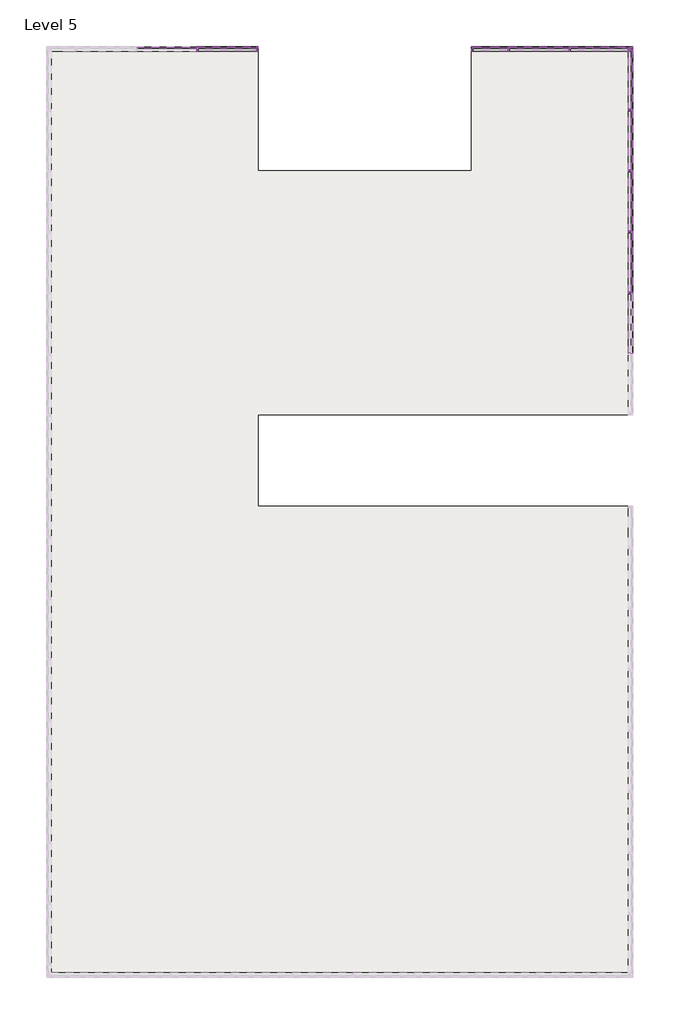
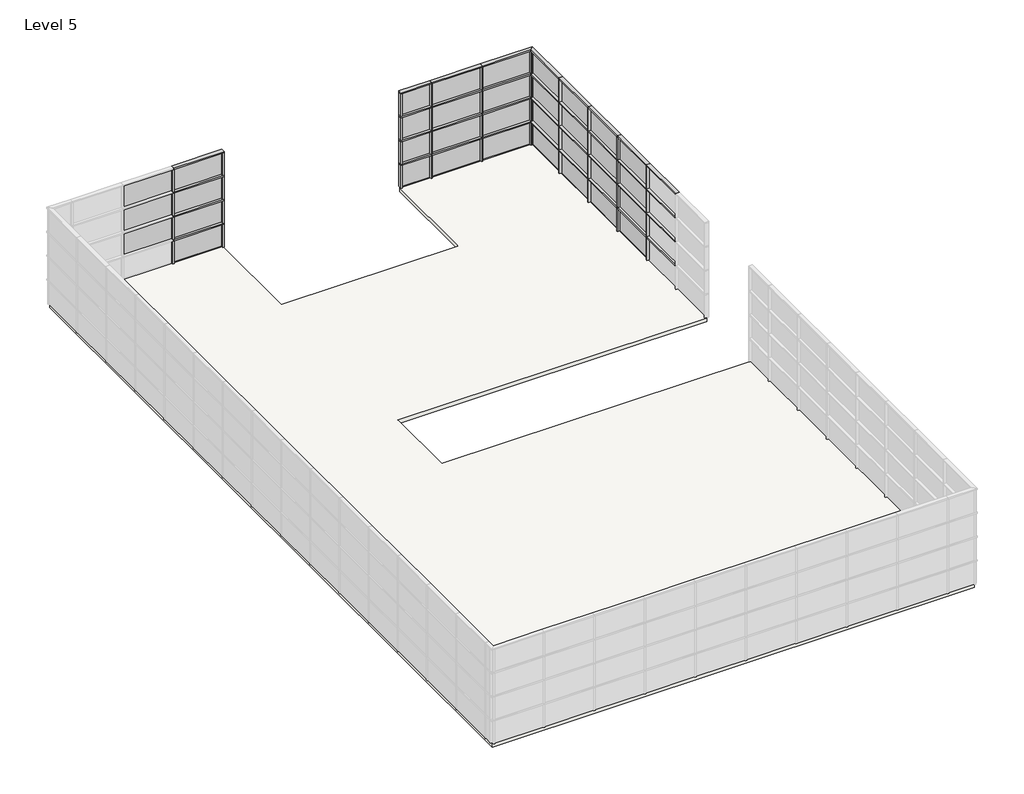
# One storey, part 5 of 5: 80 members, 35 plates, 1 slab.
"""IFC4 building model written with IfcOpenShell, lengths in millimetres."""

from ifc_helpers import new_model, si_unit, frame, origin, place, context, project, spatial, polyline, outline, extrude, transform, mapped, element, save
from components import rectangular_mullion_50_x_150mm_a053b0ca, rectangular_mullion_50_x_150mm_3a148f0f, rectangular_mullion_50_x_150mm_12a430f9, rectangular_mullion_50_x_150mm_11a594ce, rectangular_mullion_50_x_150mm_6b24f785, rectangular_mullion_50_x_150mm_947845bb, system_panel_glazed_751a585c, system_panel_glazed_08de6f5f, system_panel_glazed_892a108f

model = new_model("IFC4")

# Units and contexts
model_context = context("Model", 3, world=origin())
ifc_project = project(units=[si_unit("LENGTHUNIT", "METRE", prefix="MILLI")], contexts=[model_context])

# Site, building, storey
site = spatial("IfcSite", under=ifc_project)
building = spatial("IfcBuilding", under=site)
storey = spatial("IfcBuildingStorey", under=building, Name="Level 5", Elevation=16000.0)

# Members
placement = place(None, origin())
rectangular_mullion_50_x_150mm_shape = rectangular_mullion_50_x_150mm_a053b0ca(model_context)
element("IfcMember", 1, ObjectType="Rectangular Mullion : 50 x 150mm", at=placement, inside=storey, context=model_context, shape_type="MappedRepresentation", body=[
    mapped(rectangular_mullion_50_x_150mm_shape, transform((-721.580781, 8375.9839566, 18025.0), x_axis=(-1.0, 0.0, 0.0), y_axis=(0.0, 1.0, 0.0), z_axis=(0.0, 0.0, -1.0))),
])
element("IfcMember", 2, ObjectType="Rectangular Mullion : 50 x 150mm", at=placement, inside=storey, context=model_context, shape_type="MappedRepresentation", body=[
    mapped(rectangular_mullion_50_x_150mm_shape, transform((-721.580781, 8375.9839566, 19025.0), x_axis=(-1.0, 0.0, 0.0), y_axis=(0.0, 1.0, 0.0), z_axis=(0.0, 0.0, -1.0))),
])
element("IfcMember", 3, ObjectType="Rectangular Mullion : 50 x 150mm", at=placement, inside=storey, context=model_context, shape_type="MappedRepresentation", body=[
    mapped(rectangular_mullion_50_x_150mm_shape, transform((-721.580781, 8375.9839566, 16025.0), x_axis=(-1.0, 0.0, 0.0), y_axis=(0.0, 1.0, 0.0), z_axis=(0.0, 0.0, -1.0))),
])
element("IfcMember", 4, ObjectType="Rectangular Mullion : 50 x 150mm", at=placement, inside=storey, context=model_context, shape_type="MappedRepresentation", body=[
    mapped(rectangular_mullion_50_x_150mm_shape, transform((-721.580781, 8375.9839566, 17025.0), x_axis=(-1.0, 0.0, 0.0), y_axis=(0.0, 1.0, 0.0), z_axis=(0.0, 0.0, -1.0))),
])
element("IfcMember", 5, ObjectType="Rectangular Mullion : 50 x 150mm", at=placement, inside=storey, context=model_context, shape_type="MappedRepresentation", body=[
    mapped(rectangular_mullion_50_x_150mm_shape, transform((9503.2660975, 8375.9839566, 16025.0), x_axis=(-1.0, 0.0, 0.0), y_axis=(0.0, 1.0, 0.0), z_axis=(0.0, 0.0, -1.0))),
])
element("IfcMember", 6, ObjectType="Rectangular Mullion : 50 x 150mm", at=placement, inside=storey, context=model_context, shape_type="MappedRepresentation", body=[
    mapped(rectangular_mullion_50_x_150mm_shape, transform((9503.2660975, 8375.9839566, 17025.0), x_axis=(-1.0, 0.0, 0.0), y_axis=(0.0, 1.0, 0.0), z_axis=(0.0, 0.0, -1.0))),
])
element("IfcMember", 7, ObjectType="Rectangular Mullion : 50 x 150mm", at=placement, inside=storey, context=model_context, shape_type="MappedRepresentation", body=[
    mapped(rectangular_mullion_50_x_150mm_shape, transform((9503.2660975, 8375.9839566, 18025.0), x_axis=(-1.0, 0.0, 0.0), y_axis=(0.0, 1.0, 0.0), z_axis=(0.0, 0.0, -1.0))),
])
element("IfcMember", 8, ObjectType="Rectangular Mullion : 50 x 150mm", at=placement, inside=storey, context=model_context, shape_type="MappedRepresentation", body=[
    mapped(rectangular_mullion_50_x_150mm_shape, transform((9503.2660975, 8375.9839566, 19025.0), x_axis=(-1.0, 0.0, 0.0), y_axis=(0.0, 1.0, 0.0), z_axis=(0.0, 0.0, -1.0))),
])
element("IfcMember", 9, ObjectType="Rectangular Mullion : 50 x 150mm", at=placement, inside=storey, context=model_context, shape_type="MappedRepresentation", body=[
    mapped(rectangular_mullion_50_x_150mm_shape, transform((11503.2660975, 8375.9839566, 19025.0), x_axis=(-1.0, 0.0, 0.0), y_axis=(0.0, 1.0, 0.0), z_axis=(0.0, 0.0, -1.0))),
])
element("IfcMember", 10, ObjectType="Rectangular Mullion : 50 x 150mm", at=placement, inside=storey, context=model_context, shape_type="MappedRepresentation", body=[
    mapped(rectangular_mullion_50_x_150mm_shape, transform((11503.2660975, 8375.9839566, 16025.0), x_axis=(-1.0, 0.0, 0.0), y_axis=(0.0, 1.0, 0.0), z_axis=(0.0, 0.0, -1.0))),
])
element("IfcMember", 11, ObjectType="Rectangular Mullion : 50 x 150mm", at=placement, inside=storey, context=model_context, shape_type="MappedRepresentation", body=[
    mapped(rectangular_mullion_50_x_150mm_shape, transform((11503.2660975, 8375.9839566, 17025.0), x_axis=(-1.0, 0.0, 0.0), y_axis=(0.0, 1.0, 0.0), z_axis=(0.0, 0.0, -1.0))),
])
element("IfcMember", 12, ObjectType="Rectangular Mullion : 50 x 150mm", at=placement, inside=storey, context=model_context, shape_type="MappedRepresentation", body=[
    mapped(rectangular_mullion_50_x_150mm_shape, transform((11503.2660975, 8375.9839566, 18025.0), x_axis=(-1.0, 0.0, 0.0), y_axis=(0.0, 1.0, 0.0), z_axis=(0.0, 0.0, -1.0))),
])
element("IfcMember", 13, ObjectType="Rectangular Mullion : 50 x 150mm", at=placement, inside=storey, context=model_context, shape_type="MappedRepresentation", body=[
    mapped(rectangular_mullion_50_x_150mm_shape, transform((13503.2660975, 375.9839566, 18025.0), x_axis=(0.0, 1.0, 0.0), y_axis=(1.0, 0.0, 0.0), z_axis=(0.0, 0.0, -1.0))),
])
element("IfcMember", 14, ObjectType="Rectangular Mullion : 50 x 150mm", at=placement, inside=storey, context=model_context, shape_type="MappedRepresentation", body=[
    mapped(rectangular_mullion_50_x_150mm_shape, transform((13503.2660975, 375.9839566, 19025.0), x_axis=(0.0, 1.0, 0.0), y_axis=(1.0, 0.0, 0.0), z_axis=(0.0, 0.0, -1.0))),
])
element("IfcMember", 15, ObjectType="Rectangular Mullion : 50 x 150mm", at=placement, inside=storey, context=model_context, shape_type="MappedRepresentation", body=[
    mapped(rectangular_mullion_50_x_150mm_shape, transform((13503.2660975, 2375.9839566, 16025.0), x_axis=(0.0, 1.0, 0.0), y_axis=(1.0, 0.0, 0.0), z_axis=(0.0, 0.0, -1.0))),
])
element("IfcMember", 16, ObjectType="Rectangular Mullion : 50 x 150mm", at=placement, inside=storey, context=model_context, shape_type="MappedRepresentation", body=[
    mapped(rectangular_mullion_50_x_150mm_shape, transform((13503.2660975, 2375.9839566, 17025.0), x_axis=(0.0, 1.0, 0.0), y_axis=(1.0, 0.0, 0.0), z_axis=(0.0, 0.0, -1.0))),
])
element("IfcMember", 17, ObjectType="Rectangular Mullion : 50 x 150mm", at=placement, inside=storey, context=model_context, shape_type="MappedRepresentation", body=[
    mapped(rectangular_mullion_50_x_150mm_shape, transform((13503.2660975, 2375.9839566, 18025.0), x_axis=(0.0, 1.0, 0.0), y_axis=(1.0, 0.0, 0.0), z_axis=(0.0, 0.0, -1.0))),
])
element("IfcMember", 18, ObjectType="Rectangular Mullion : 50 x 150mm", at=placement, inside=storey, context=model_context, shape_type="MappedRepresentation", body=[
    mapped(rectangular_mullion_50_x_150mm_shape, transform((13503.2660975, 2375.9839566, 19025.0), x_axis=(0.0, 1.0, 0.0), y_axis=(1.0, 0.0, 0.0), z_axis=(0.0, 0.0, -1.0))),
])
element("IfcMember", 19, ObjectType="Rectangular Mullion : 50 x 150mm", at=placement, inside=storey, context=model_context, shape_type="MappedRepresentation", body=[
    mapped(rectangular_mullion_50_x_150mm_shape, transform((13503.2660975, 4375.9839566, 16025.0), x_axis=(0.0, 1.0, 0.0), y_axis=(1.0, 0.0, 0.0), z_axis=(0.0, 0.0, -1.0))),
])
element("IfcMember", 20, ObjectType="Rectangular Mullion : 50 x 150mm", at=placement, inside=storey, context=model_context, shape_type="MappedRepresentation", body=[
    mapped(rectangular_mullion_50_x_150mm_shape, transform((13503.2660975, 4375.9839566, 17025.0), x_axis=(0.0, 1.0, 0.0), y_axis=(1.0, 0.0, 0.0), z_axis=(0.0, 0.0, -1.0))),
])
element("IfcMember", 21, ObjectType="Rectangular Mullion : 50 x 150mm", at=placement, inside=storey, context=model_context, shape_type="MappedRepresentation", body=[
    mapped(rectangular_mullion_50_x_150mm_shape, transform((13503.2660975, 4375.9839566, 18025.0), x_axis=(0.0, 1.0, 0.0), y_axis=(1.0, 0.0, 0.0), z_axis=(0.0, 0.0, -1.0))),
])
element("IfcMember", 22, ObjectType="Rectangular Mullion : 50 x 150mm", at=placement, inside=storey, context=model_context, shape_type="MappedRepresentation", body=[
    mapped(rectangular_mullion_50_x_150mm_shape, transform((13503.2660975, 4375.9839566, 19025.0), x_axis=(0.0, 1.0, 0.0), y_axis=(1.0, 0.0, 0.0), z_axis=(0.0, 0.0, -1.0))),
])
element("IfcMember", 23, ObjectType="Rectangular Mullion : 50 x 150mm", at=placement, inside=storey, context=model_context, shape_type="MappedRepresentation", body=[
    mapped(rectangular_mullion_50_x_150mm_shape, transform((13503.2660975, 6375.9839566, 16025.0), x_axis=(0.0, 1.0, 0.0), y_axis=(1.0, 0.0, 0.0), z_axis=(0.0, 0.0, -0.9999999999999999))),
])
element("IfcMember", 24, ObjectType="Rectangular Mullion : 50 x 150mm", at=placement, inside=storey, context=model_context, shape_type="MappedRepresentation", body=[
    mapped(rectangular_mullion_50_x_150mm_shape, transform((13503.2660975, 6375.9839566, 17025.0), x_axis=(0.0, 1.0, 0.0), y_axis=(1.0, 0.0, 0.0), z_axis=(0.0, 0.0, -1.0))),
])
element("IfcMember", 25, ObjectType="Rectangular Mullion : 50 x 150mm", at=placement, inside=storey, context=model_context, shape_type="MappedRepresentation", body=[
    mapped(rectangular_mullion_50_x_150mm_shape, transform((13503.2660975, 6375.9839566, 18025.0), x_axis=(0.0, 1.0, 0.0), y_axis=(1.0, 0.0, 0.0), z_axis=(0.0, 0.0, -1.0))),
])
element("IfcMember", 26, ObjectType="Rectangular Mullion : 50 x 150mm", at=placement, inside=storey, context=model_context, shape_type="MappedRepresentation", body=[
    mapped(rectangular_mullion_50_x_150mm_shape, transform((13503.2660975, 6375.9839566, 19025.0), x_axis=(0.0, 1.0, 0.0), y_axis=(1.0, 0.0, 0.0), z_axis=(0.0, 0.0, -1.0))),
])
element("IfcMember", 27, ObjectType="Rectangular Mullion : 50 x 150mm", at=placement, inside=storey, context=model_context, shape_type="MappedRepresentation", body=[
    mapped(rectangular_mullion_50_x_150mm_shape, transform((13503.2660975, 375.9839566, 16025.0), x_axis=(0.0, 1.0, 0.0), y_axis=(1.0, 0.0, 0.0), z_axis=(0.0, 0.0, -1.0))),
])
element("IfcMember", 28, ObjectType="Rectangular Mullion : 50 x 150mm", at=placement, inside=storey, context=model_context, shape_type="MappedRepresentation", body=[
    mapped(rectangular_mullion_50_x_150mm_shape, transform((13503.2660975, 375.9839566, 17025.0), x_axis=(0.0, 1.0, 0.0), y_axis=(1.0, 0.0, 0.0), z_axis=(0.0, 0.0, -1.0))),
])
rectangular_mullion_50_x_150mm_2_shape = rectangular_mullion_50_x_150mm_3a148f0f(model_context)
element("IfcMember", 29, ObjectType="Rectangular Mullion : 50 x 150mm", at=placement, inside=storey, context=model_context, shape_type="MappedRepresentation", body=[
    mapped(rectangular_mullion_50_x_150mm_2_shape, transform((-721.580781, 8375.9839566, 17000.0), x_axis=(0.0, 0.0, 1.0), y_axis=(0.0, 1.0, 0.0), z_axis=(-1.0, 0.0, 0.0))),
])
element("IfcMember", 30, ObjectType="Rectangular Mullion : 50 x 150mm", at=placement, inside=storey, context=model_context, shape_type="MappedRepresentation", body=[
    mapped(rectangular_mullion_50_x_150mm_2_shape, transform((-721.580781, 8375.9839566, 18000.0), x_axis=(0.0, 0.0, 1.0), y_axis=(0.0, 1.0, 0.0), z_axis=(-1.0, 0.0, 0.0))),
])
element("IfcMember", 31, ObjectType="Rectangular Mullion : 50 x 150mm", at=placement, inside=storey, context=model_context, shape_type="MappedRepresentation", body=[
    mapped(rectangular_mullion_50_x_150mm_2_shape, transform((-721.580781, 8375.9839566, 19000.0), x_axis=(0.0, 0.0, 1.0), y_axis=(0.0, 1.0, 0.0), z_axis=(-1.0, 0.0, 0.0))),
])
element("IfcMember", 32, ObjectType="Rectangular Mullion : 50 x 150mm", at=placement, inside=storey, context=model_context, shape_type="MappedRepresentation", body=[
    mapped(rectangular_mullion_50_x_150mm_2_shape, transform((-721.580781, 8375.9839566, 20000.0), x_axis=(0.0, 0.0, 1.0), y_axis=(0.0, 1.0, 0.0), z_axis=(-1.0, 0.0, 0.0))),
])
element("IfcMember", 33, ObjectType="Rectangular Mullion : 50 x 150mm", at=placement, inside=storey, context=model_context, shape_type="MappedRepresentation", body=[
    mapped(rectangular_mullion_50_x_150mm_2_shape, transform((9503.2660975, 8375.9839566, 17000.0), x_axis=(0.0, 0.0, 1.0), y_axis=(0.0, 1.0, 0.0), z_axis=(-1.0, 0.0, 0.0))),
])
element("IfcMember", 34, ObjectType="Rectangular Mullion : 50 x 150mm", at=placement, inside=storey, context=model_context, shape_type="MappedRepresentation", body=[
    mapped(rectangular_mullion_50_x_150mm_2_shape, transform((9503.2660975, 8375.9839566, 18000.0), x_axis=(0.0, 0.0, 1.0), y_axis=(0.0, 1.0, 0.0), z_axis=(-1.0, 0.0, 0.0))),
])
element("IfcMember", 35, ObjectType="Rectangular Mullion : 50 x 150mm", at=placement, inside=storey, context=model_context, shape_type="MappedRepresentation", body=[
    mapped(rectangular_mullion_50_x_150mm_2_shape, transform((9503.2660975, 8375.9839566, 19000.0), x_axis=(0.0, 0.0, 1.0), y_axis=(0.0, 1.0, 0.0), z_axis=(-1.0, 0.0, 0.0))),
])
element("IfcMember", 36, ObjectType="Rectangular Mullion : 50 x 150mm", at=placement, inside=storey, context=model_context, shape_type="MappedRepresentation", body=[
    mapped(rectangular_mullion_50_x_150mm_2_shape, transform((9503.2660975, 8375.9839566, 20000.0), x_axis=(0.0, 0.0, 1.0), y_axis=(0.0, 1.0, 0.0), z_axis=(-1.0, 0.0, 0.0))),
])
element("IfcMember", 37, ObjectType="Rectangular Mullion : 50 x 150mm", at=placement, inside=storey, context=model_context, shape_type="MappedRepresentation", body=[
    mapped(rectangular_mullion_50_x_150mm_2_shape, transform((13503.2660975, 375.9839566, 17000.0), x_axis=(0.0, 0.0, 1.0), y_axis=(1.0, 0.0, 0.0), z_axis=(0.0, 1.0, 0.0))),
])
element("IfcMember", 38, ObjectType="Rectangular Mullion : 50 x 150mm", at=placement, inside=storey, context=model_context, shape_type="MappedRepresentation", body=[
    mapped(rectangular_mullion_50_x_150mm_2_shape, transform((13503.2660975, 2375.9839566, 17000.0), x_axis=(0.0, 0.0, 1.0), y_axis=(1.0, 0.0, 0.0), z_axis=(0.0, 1.0, 0.0))),
])
element("IfcMember", 39, ObjectType="Rectangular Mullion : 50 x 150mm", at=placement, inside=storey, context=model_context, shape_type="MappedRepresentation", body=[
    mapped(rectangular_mullion_50_x_150mm_2_shape, transform((13503.2660975, 4375.9839566, 17000.0), x_axis=(0.0, 0.0, 1.0), y_axis=(1.0, 0.0, 0.0), z_axis=(0.0, 1.0, 0.0))),
])
element("IfcMember", 40, ObjectType="Rectangular Mullion : 50 x 150mm", at=placement, inside=storey, context=model_context, shape_type="MappedRepresentation", body=[
    mapped(rectangular_mullion_50_x_150mm_2_shape, transform((13503.2660975, 6375.9839566, 17000.0), x_axis=(0.0, 0.0, 1.0), y_axis=(1.0, 0.0, 0.0), z_axis=(0.0, 1.0, 0.0))),
])
element("IfcMember", 41, ObjectType="Rectangular Mullion : 50 x 150mm", at=placement, inside=storey, context=model_context, shape_type="MappedRepresentation", body=[
    mapped(rectangular_mullion_50_x_150mm_2_shape, transform((13503.2660975, 375.9839566, 18000.0), x_axis=(0.0, 0.0, 1.0), y_axis=(1.0, 0.0, 0.0), z_axis=(0.0, 1.0, 0.0))),
])
element("IfcMember", 42, ObjectType="Rectangular Mullion : 50 x 150mm", at=placement, inside=storey, context=model_context, shape_type="MappedRepresentation", body=[
    mapped(rectangular_mullion_50_x_150mm_2_shape, transform((13503.2660975, 2375.9839566, 18000.0), x_axis=(0.0, 0.0, 1.0), y_axis=(1.0, 0.0, 0.0), z_axis=(0.0, 1.0, 0.0))),
])
element("IfcMember", 43, ObjectType="Rectangular Mullion : 50 x 150mm", at=placement, inside=storey, context=model_context, shape_type="MappedRepresentation", body=[
    mapped(rectangular_mullion_50_x_150mm_2_shape, transform((13503.2660975, 4375.9839566, 18000.0), x_axis=(0.0, 0.0, 1.0), y_axis=(1.0, 0.0, 0.0), z_axis=(0.0, 1.0, 0.0))),
])
element("IfcMember", 44, ObjectType="Rectangular Mullion : 50 x 150mm", at=placement, inside=storey, context=model_context, shape_type="MappedRepresentation", body=[
    mapped(rectangular_mullion_50_x_150mm_2_shape, transform((13503.2660975, 6375.9839566, 18000.0), x_axis=(0.0, 0.0, 1.0), y_axis=(1.0, 0.0, 0.0), z_axis=(0.0, 1.0, 0.0))),
])
element("IfcMember", 45, ObjectType="Rectangular Mullion : 50 x 150mm", at=placement, inside=storey, context=model_context, shape_type="MappedRepresentation", body=[
    mapped(rectangular_mullion_50_x_150mm_2_shape, transform((13503.2660975, 375.9839566, 19000.0), x_axis=(0.0, 0.0, 1.0), y_axis=(1.0, 0.0, 0.0), z_axis=(0.0, 1.0, 0.0))),
])
element("IfcMember", 46, ObjectType="Rectangular Mullion : 50 x 150mm", at=placement, inside=storey, context=model_context, shape_type="MappedRepresentation", body=[
    mapped(rectangular_mullion_50_x_150mm_2_shape, transform((13503.2660975, 2375.9839566, 19000.0), x_axis=(0.0, 0.0, 1.0), y_axis=(1.0, 0.0, 0.0), z_axis=(0.0, 1.0, 0.0))),
])
element("IfcMember", 47, ObjectType="Rectangular Mullion : 50 x 150mm", at=placement, inside=storey, context=model_context, shape_type="MappedRepresentation", body=[
    mapped(rectangular_mullion_50_x_150mm_2_shape, transform((13503.2660975, 4375.9839566, 19000.0), x_axis=(0.0, 0.0, 1.0), y_axis=(1.0, 0.0, 0.0), z_axis=(0.0, 1.0, 0.0))),
])
element("IfcMember", 48, ObjectType="Rectangular Mullion : 50 x 150mm", at=placement, inside=storey, context=model_context, shape_type="MappedRepresentation", body=[
    mapped(rectangular_mullion_50_x_150mm_2_shape, transform((13503.2660975, 6375.9839566, 19000.0), x_axis=(0.0, 0.0, 1.0), y_axis=(1.0, 0.0, 0.0), z_axis=(0.0, 1.0, 0.0))),
])
element("IfcMember", 49, ObjectType="Rectangular Mullion : 50 x 150mm", at=placement, inside=storey, context=model_context, shape_type="MappedRepresentation", body=[
    mapped(rectangular_mullion_50_x_150mm_2_shape, transform((13503.2660975, 375.9839566, 20000.0), x_axis=(0.0, 0.0, 1.0), y_axis=(1.0, 0.0, 0.0), z_axis=(0.0, 1.0, 0.0))),
])
element("IfcMember", 50, ObjectType="Rectangular Mullion : 50 x 150mm", at=placement, inside=storey, context=model_context, shape_type="MappedRepresentation", body=[
    mapped(rectangular_mullion_50_x_150mm_2_shape, transform((13503.2660975, 2375.9839566, 20000.0), x_axis=(0.0, 0.0, 1.0), y_axis=(1.0, 0.0, 0.0), z_axis=(0.0, 1.0, 0.0))),
])
element("IfcMember", 51, ObjectType="Rectangular Mullion : 50 x 150mm", at=placement, inside=storey, context=model_context, shape_type="MappedRepresentation", body=[
    mapped(rectangular_mullion_50_x_150mm_2_shape, transform((13503.2660975, 4375.9839566, 20000.0), x_axis=(0.0, 0.0, 1.0), y_axis=(1.0, 0.0, 0.0), z_axis=(0.0, 1.0, 0.0))),
])
element("IfcMember", 52, ObjectType="Rectangular Mullion : 50 x 150mm", at=placement, inside=storey, context=model_context, shape_type="MappedRepresentation", body=[
    mapped(rectangular_mullion_50_x_150mm_2_shape, transform((13503.2660975, 6375.9839566, 20000.0), x_axis=(0.0, 0.0, 1.0), y_axis=(1.0, 0.0, 0.0), z_axis=(0.0, 1.0, 0.0))),
])
rectangular_mullion_50_x_150mm_3_shape = rectangular_mullion_50_x_150mm_12a430f9(model_context)
element("IfcMember", 53, ObjectType="Rectangular Mullion : 50 x 150mm", at=placement, inside=storey, context=model_context, shape_type="MappedRepresentation", body=[
    mapped(rectangular_mullion_50_x_150mm_3_shape, transform((1278.419219, 8375.9839566, 16975.0), x_axis=(1.0, 0.0, 0.0), y_axis=(0.0, 1.0, 0.0), z_axis=(0.0, 0.0, 1.0))),
])
element("IfcMember", 54, ObjectType="Rectangular Mullion : 50 x 150mm", at=placement, inside=storey, context=model_context, shape_type="MappedRepresentation", body=[
    mapped(rectangular_mullion_50_x_150mm_3_shape, transform((1278.419219, 8375.9839566, 17975.0), x_axis=(1.0, 0.0, 0.0), y_axis=(0.0, 1.0, 0.0), z_axis=(0.0, 0.0, 1.0))),
])
element("IfcMember", 55, ObjectType="Rectangular Mullion : 50 x 150mm", at=placement, inside=storey, context=model_context, shape_type="MappedRepresentation", body=[
    mapped(rectangular_mullion_50_x_150mm_3_shape, transform((1278.419219, 8375.9839566, 18975.0), x_axis=(1.0, 0.0, 0.0), y_axis=(0.0, 1.0, 0.0), z_axis=(0.0, 0.0, 1.0))),
])
element("IfcMember", 56, ObjectType="Rectangular Mullion : 50 x 150mm", at=placement, inside=storey, context=model_context, shape_type="MappedRepresentation", body=[
    mapped(rectangular_mullion_50_x_150mm_3_shape, transform((1278.419219, 8375.9839566, 19975.0), x_axis=(1.0, 0.0, 0.0), y_axis=(0.0, 1.0, 0.0), z_axis=(0.0, 0.0, 1.0))),
])
element("IfcMember", 57, ObjectType="Rectangular Mullion : 50 x 150mm", at=placement, inside=storey, context=model_context, shape_type="MappedRepresentation", body=[
    mapped(rectangular_mullion_50_x_150mm_3_shape, transform((13503.2660975, 8375.9839566, 16975.0), x_axis=(1.0, 0.0, 0.0), y_axis=(0.0, 1.0, 0.0), z_axis=(0.0, 0.0, 1.0))),
])
element("IfcMember", 58, ObjectType="Rectangular Mullion : 50 x 150mm", at=placement, inside=storey, context=model_context, shape_type="MappedRepresentation", body=[
    mapped(rectangular_mullion_50_x_150mm_3_shape, transform((13503.2660975, 8375.9839566, 17975.0), x_axis=(1.0, 0.0, 0.0), y_axis=(0.0, 1.0, 0.0), z_axis=(0.0, 0.0, 1.0))),
])
element("IfcMember", 59, ObjectType="Rectangular Mullion : 50 x 150mm", at=placement, inside=storey, context=model_context, shape_type="MappedRepresentation", body=[
    mapped(rectangular_mullion_50_x_150mm_3_shape, transform((13503.2660975, 8375.9839566, 18975.0), x_axis=(1.0, 0.0, 0.0), y_axis=(0.0, 1.0, 0.0), z_axis=(0.0, 0.0, 1.0))),
])
element("IfcMember", 60, ObjectType="Rectangular Mullion : 50 x 150mm", at=placement, inside=storey, context=model_context, shape_type="MappedRepresentation", body=[
    mapped(rectangular_mullion_50_x_150mm_3_shape, transform((13503.2660975, 8375.9839566, 19975.0), x_axis=(1.0, 0.0, 0.0), y_axis=(0.0, 1.0, 0.0), z_axis=(0.0, 0.0, 1.0))),
])
element("IfcMember", 61, ObjectType="Rectangular Mullion : 50 x 150mm", at=placement, inside=storey, context=model_context, shape_type="MappedRepresentation", body=[
    mapped(rectangular_mullion_50_x_150mm_3_shape, transform((8278.419219, 8375.9839566, 16025.0), x_axis=(-1.0, 0.0, 0.0), y_axis=(0.0, 1.0, 0.0), z_axis=(0.0, 0.0, -1.0))),
])
element("IfcMember", 62, ObjectType="Rectangular Mullion : 50 x 150mm", at=placement, inside=storey, context=model_context, shape_type="MappedRepresentation", body=[
    mapped(rectangular_mullion_50_x_150mm_3_shape, transform((8278.419219, 8375.9839566, 17025.0), x_axis=(-1.0, 0.0, 0.0), y_axis=(0.0, 1.0, 0.0), z_axis=(0.0, 0.0, -1.0))),
])
element("IfcMember", 63, ObjectType="Rectangular Mullion : 50 x 150mm", at=placement, inside=storey, context=model_context, shape_type="MappedRepresentation", body=[
    mapped(rectangular_mullion_50_x_150mm_3_shape, transform((8278.419219, 8375.9839566, 18025.0), x_axis=(-1.0, 0.0, 0.0), y_axis=(0.0, 1.0, 0.0), z_axis=(0.0, 0.0, -1.0))),
])
element("IfcMember", 64, ObjectType="Rectangular Mullion : 50 x 150mm", at=placement, inside=storey, context=model_context, shape_type="MappedRepresentation", body=[
    mapped(rectangular_mullion_50_x_150mm_3_shape, transform((8278.419219, 8375.9839566, 19025.0), x_axis=(-1.0, 0.0, 0.0), y_axis=(0.0, 1.0, 0.0), z_axis=(0.0, 0.0, -1.0))),
])
element("IfcMember", 65, ObjectType="Rectangular Mullion : 50 x 150mm", at=placement, inside=storey, context=model_context, shape_type="MappedRepresentation", body=[
    mapped(rectangular_mullion_50_x_150mm_3_shape, transform((13503.2660975, 8375.9839566, 16025.0), x_axis=(0.0, 1.0, 0.0), y_axis=(1.0, 0.0, 0.0), z_axis=(0.0, 0.0, -1.0))),
])
element("IfcMember", 66, ObjectType="Rectangular Mullion : 50 x 150mm", at=placement, inside=storey, context=model_context, shape_type="MappedRepresentation", body=[
    mapped(rectangular_mullion_50_x_150mm_3_shape, transform((13503.2660975, 8375.9839566, 17025.0), x_axis=(0.0, 1.0, 0.0), y_axis=(1.0, 0.0, 0.0), z_axis=(0.0, 0.0, -1.0))),
])
element("IfcMember", 67, ObjectType="Rectangular Mullion : 50 x 150mm", at=placement, inside=storey, context=model_context, shape_type="MappedRepresentation", body=[
    mapped(rectangular_mullion_50_x_150mm_3_shape, transform((13503.2660975, 8375.9839566, 18025.0), x_axis=(0.0, 1.0, 0.0), y_axis=(1.0, 0.0, 0.0), z_axis=(0.0, 0.0, -1.0))),
])
element("IfcMember", 68, ObjectType="Rectangular Mullion : 50 x 150mm", at=placement, inside=storey, context=model_context, shape_type="MappedRepresentation", body=[
    mapped(rectangular_mullion_50_x_150mm_3_shape, transform((13503.2660975, 8375.9839566, 19025.0), x_axis=(0.0, 1.0, 0.0), y_axis=(1.0, 0.0, 0.0), z_axis=(0.0, 0.0, -1.0))),
])
rectangular_mullion_50_x_150mm_4_shape = rectangular_mullion_50_x_150mm_11a594ce(model_context)
element("IfcMember", 69, ObjectType="Rectangular Mullion : 50 x 150mm", at=placement, inside=storey, context=model_context, shape_type="MappedRepresentation", body=[
    mapped(rectangular_mullion_50_x_150mm_4_shape, transform((8278.419219, 8375.9839566, 17000.0), x_axis=(0.0, 0.0, 1.0), y_axis=(0.0, 1.0, 0.0), z_axis=(-1.0, 0.0, 0.0))),
])
element("IfcMember", 70, ObjectType="Rectangular Mullion : 50 x 150mm", at=placement, inside=storey, context=model_context, shape_type="MappedRepresentation", body=[
    mapped(rectangular_mullion_50_x_150mm_4_shape, transform((8278.419219, 8375.9839566, 18000.0), x_axis=(0.0, 0.0, 1.0), y_axis=(0.0, 1.0, 0.0), z_axis=(-1.0, 0.0, 0.0))),
])
element("IfcMember", 71, ObjectType="Rectangular Mullion : 50 x 150mm", at=placement, inside=storey, context=model_context, shape_type="MappedRepresentation", body=[
    mapped(rectangular_mullion_50_x_150mm_4_shape, transform((8278.419219, 8375.9839566, 19000.0), x_axis=(0.0, 0.0, 1.0), y_axis=(0.0, 1.0, 0.0), z_axis=(-1.0, 0.0, 0.0))),
])
element("IfcMember", 72, ObjectType="Rectangular Mullion : 50 x 150mm", at=placement, inside=storey, context=model_context, shape_type="MappedRepresentation", body=[
    mapped(rectangular_mullion_50_x_150mm_4_shape, transform((8278.419219, 8375.9839566, 20000.0), x_axis=(0.0, 0.0, 1.0), y_axis=(0.0, 1.0, 0.0), z_axis=(-1.0, 0.0, 0.0))),
])
rectangular_mullion_50_x_150mm_5_shape = rectangular_mullion_50_x_150mm_6b24f785(model_context)
element("IfcMember", 73, ObjectType="Rectangular Mullion : 50 x 150mm", at=placement, inside=storey, context=model_context, shape_type="MappedRepresentation", body=[
    mapped(rectangular_mullion_50_x_150mm_5_shape, transform((13503.2660975, 8375.9839566, 17000.0), x_axis=(0.0, 0.0, 1.0), y_axis=(1.0, 0.0, 0.0), z_axis=(0.0, 0.9999999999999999, 0.0))),
])
element("IfcMember", 74, ObjectType="Rectangular Mullion : 50 x 150mm", at=placement, inside=storey, context=model_context, shape_type="MappedRepresentation", body=[
    mapped(rectangular_mullion_50_x_150mm_5_shape, transform((13503.2660975, 8375.9839566, 18000.0), x_axis=(0.0, 0.0, 1.0), y_axis=(1.0, 0.0, 0.0), z_axis=(0.0, 0.9999999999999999, 0.0))),
])
element("IfcMember", 75, ObjectType="Rectangular Mullion : 50 x 150mm", at=placement, inside=storey, context=model_context, shape_type="MappedRepresentation", body=[
    mapped(rectangular_mullion_50_x_150mm_5_shape, transform((13503.2660975, 8375.9839566, 19000.0), x_axis=(0.0, 0.0, 1.0), y_axis=(1.0, 0.0, 0.0), z_axis=(0.0, 0.9999999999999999, 0.0))),
])
element("IfcMember", 76, ObjectType="Rectangular Mullion : 50 x 150mm", at=placement, inside=storey, context=model_context, shape_type="MappedRepresentation", body=[
    mapped(rectangular_mullion_50_x_150mm_5_shape, transform((13503.2660975, 8375.9839566, 20000.0), x_axis=(0.0, 0.0, 1.0), y_axis=(1.0, 0.0, 0.0), z_axis=(0.0, 0.9999999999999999, 0.0))),
])
rectangular_mullion_50_x_150mm_6_shape = rectangular_mullion_50_x_150mm_947845bb(model_context)
element("IfcMember", 77, ObjectType="Rectangular Mullion : 50 x 150mm", at=placement, inside=storey, context=model_context, shape_type="MappedRepresentation", body=[
    mapped(rectangular_mullion_50_x_150mm_6_shape, transform((11503.2660975, 8375.9839566, 17000.0), x_axis=(0.0, 0.0, 1.0), y_axis=(0.0, 1.0, 0.0), z_axis=(-1.0, 0.0, 0.0))),
])
element("IfcMember", 78, ObjectType="Rectangular Mullion : 50 x 150mm", at=placement, inside=storey, context=model_context, shape_type="MappedRepresentation", body=[
    mapped(rectangular_mullion_50_x_150mm_6_shape, transform((11503.2660975, 8375.9839566, 18000.0), x_axis=(0.0, 0.0, 1.0), y_axis=(0.0, 1.0, 0.0), z_axis=(-1.0, 0.0, 0.0))),
])
element("IfcMember", 79, ObjectType="Rectangular Mullion : 50 x 150mm", at=placement, inside=storey, context=model_context, shape_type="MappedRepresentation", body=[
    mapped(rectangular_mullion_50_x_150mm_6_shape, transform((11503.2660975, 8375.9839566, 19000.0), x_axis=(0.0, 0.0, 1.0), y_axis=(0.0, 1.0, 0.0), z_axis=(-1.0, 0.0, 0.0))),
])
element("IfcMember", 80, ObjectType="Rectangular Mullion : 50 x 150mm", at=placement, inside=storey, context=model_context, shape_type="MappedRepresentation", body=[
    mapped(rectangular_mullion_50_x_150mm_6_shape, transform((11503.2660975, 8375.9839566, 20000.0), x_axis=(0.0, 0.0, 1.0), y_axis=(0.0, 1.0, 0.0), z_axis=(-1.0, 0.0, 0.0))),
])

# Plates
system_panel_glazed_shape = system_panel_glazed_751a585c(model_context)
element("IfcPlate", 81, ObjectType="System Panel : Glazed", at=placement, inside=storey, context=model_context, shape_type="MappedRepresentation", body=[
    mapped(system_panel_glazed_shape, transform((13503.2660975, 6400.9839566, 16500.0), x_axis=(0.0, 0.0, 1.0), y_axis=(1.0, 0.0, 0.0), z_axis=(0.0, 1.0, 0.0))),
])
element("IfcPlate", 82, ObjectType="System Panel : Glazed", at=placement, inside=storey, context=model_context, shape_type="MappedRepresentation", body=[
    mapped(system_panel_glazed_shape, transform((13503.2660975, 6400.9839566, 17500.0), x_axis=(0.0, 0.0, 1.0), y_axis=(1.0, 0.0, 0.0), z_axis=(0.0, 1.0, 0.0))),
])
element("IfcPlate", 83, ObjectType="System Panel : Glazed", at=placement, inside=storey, context=model_context, shape_type="MappedRepresentation", body=[
    mapped(system_panel_glazed_shape, transform((13503.2660975, 6400.9839566, 18500.0), x_axis=(0.0, 0.0, 1.0), y_axis=(1.0, 0.0, 0.0), z_axis=(0.0, 1.0, 0.0))),
])
element("IfcPlate", 84, ObjectType="System Panel : Glazed", at=placement, inside=storey, context=model_context, shape_type="MappedRepresentation", body=[
    mapped(system_panel_glazed_shape, transform((13503.2660975, 6400.9839566, 19500.0), x_axis=(0.0, 0.0, 1.0), y_axis=(1.0, 0.0, 0.0), z_axis=(0.0, 1.0, 0.0))),
])
element("IfcPlate", 85, ObjectType="System Panel : Glazed", at=placement, inside=storey, context=model_context, shape_type="MappedRepresentation", body=[
    mapped(system_panel_glazed_shape, transform((13453.2660975, 8375.9839566, 16500.0), x_axis=(0.0, 0.0, 1.0), y_axis=(0.0, 1.0, 0.0), z_axis=(-1.0, 0.0, 0.0))),
])
element("IfcPlate", 86, ObjectType="System Panel : Glazed", at=placement, inside=storey, context=model_context, shape_type="MappedRepresentation", body=[
    mapped(system_panel_glazed_shape, transform((13453.2660975, 8375.9839566, 17500.0), x_axis=(0.0, 0.0, 1.0), y_axis=(0.0, 1.0, 0.0), z_axis=(-1.0, 0.0, 0.0))),
])
element("IfcPlate", 87, ObjectType="System Panel : Glazed", at=placement, inside=storey, context=model_context, shape_type="MappedRepresentation", body=[
    mapped(system_panel_glazed_shape, transform((13453.2660975, 8375.9839566, 18500.0), x_axis=(0.0, 0.0, 1.0), y_axis=(0.0, 1.0, 0.0), z_axis=(-1.0, 0.0, 0.0))),
])
element("IfcPlate", 88, ObjectType="System Panel : Glazed", at=placement, inside=storey, context=model_context, shape_type="MappedRepresentation", body=[
    mapped(system_panel_glazed_shape, transform((13453.2660975, 8375.9839566, 19500.0), x_axis=(0.0, 0.0, 1.0), y_axis=(0.0, 1.0, 0.0), z_axis=(-1.0, 0.0, 0.0))),
])
element("IfcPlate", 89, ObjectType="System Panel : Glazed", at=placement, inside=storey, context=model_context, shape_type="MappedRepresentation", body=[
    mapped(system_panel_glazed_shape, transform((1228.419219, 8375.9839566, 16500.0), x_axis=(0.0, 0.0, 1.0), y_axis=(0.0, 1.0, 0.0), z_axis=(-1.0, 0.0, 0.0))),
])
element("IfcPlate", 90, ObjectType="System Panel : Glazed", at=placement, inside=storey, context=model_context, shape_type="MappedRepresentation", body=[
    mapped(system_panel_glazed_shape, transform((1228.419219, 8375.9839566, 17500.0), x_axis=(0.0, 0.0, 1.0), y_axis=(0.0, 1.0, 0.0), z_axis=(-1.0, 0.0, 0.0))),
])
element("IfcPlate", 91, ObjectType="System Panel : Glazed", at=placement, inside=storey, context=model_context, shape_type="MappedRepresentation", body=[
    mapped(system_panel_glazed_shape, transform((1228.419219, 8375.9839566, 18500.0), x_axis=(0.0, 0.0, 1.0), y_axis=(0.0, 1.0, 0.0), z_axis=(-1.0, 0.0, 0.0))),
])
element("IfcPlate", 92, ObjectType="System Panel : Glazed", at=placement, inside=storey, context=model_context, shape_type="MappedRepresentation", body=[
    mapped(system_panel_glazed_shape, transform((1228.419219, 8375.9839566, 19500.0), x_axis=(0.0, 0.0, 1.0), y_axis=(0.0, 1.0, 0.0), z_axis=(-1.0, 0.0, 0.0))),
])
system_panel_glazed_2_shape = system_panel_glazed_08de6f5f(model_context)
element("IfcPlate", 93, ObjectType="System Panel : Glazed", at=placement, inside=storey, context=model_context, shape_type="MappedRepresentation", body=[
    mapped(system_panel_glazed_2_shape, transform((13503.2660975, 400.9839566, 16500.0), x_axis=(0.0, 0.0, 1.0), y_axis=(1.0, 0.0, 0.0), z_axis=(0.0, 1.0, 0.0))),
])
element("IfcPlate", 94, ObjectType="System Panel : Glazed", at=placement, inside=storey, context=model_context, shape_type="MappedRepresentation", body=[
    mapped(system_panel_glazed_2_shape, transform((13503.2660975, 2400.9839566, 16500.0), x_axis=(0.0, 0.0, 1.0), y_axis=(1.0, 0.0, 0.0), z_axis=(0.0, 1.0, 0.0))),
])
element("IfcPlate", 95, ObjectType="System Panel : Glazed", at=placement, inside=storey, context=model_context, shape_type="MappedRepresentation", body=[
    mapped(system_panel_glazed_2_shape, transform((13503.2660975, 4400.9839566, 16500.0), x_axis=(0.0, 0.0, 1.0), y_axis=(1.0, 0.0, 0.0), z_axis=(0.0, 1.0, 0.0))),
])
element("IfcPlate", 96, ObjectType="System Panel : Glazed", at=placement, inside=storey, context=model_context, shape_type="MappedRepresentation", body=[
    mapped(system_panel_glazed_2_shape, transform((13503.2660975, 400.9839566, 17500.0), x_axis=(0.0, 0.0, 1.0), y_axis=(1.0, 0.0, 0.0), z_axis=(0.0, 1.0, 0.0))),
])
element("IfcPlate", 97, ObjectType="System Panel : Glazed", at=placement, inside=storey, context=model_context, shape_type="MappedRepresentation", body=[
    mapped(system_panel_glazed_2_shape, transform((13503.2660975, 2400.9839566, 17500.0), x_axis=(0.0, 0.0, 1.0), y_axis=(1.0, 0.0, 0.0), z_axis=(0.0, 1.0, 0.0))),
])
element("IfcPlate", 98, ObjectType="System Panel : Glazed", at=placement, inside=storey, context=model_context, shape_type="MappedRepresentation", body=[
    mapped(system_panel_glazed_2_shape, transform((13503.2660975, 4400.9839566, 17500.0), x_axis=(0.0, 0.0, 1.0), y_axis=(1.0, 0.0, 0.0), z_axis=(0.0, 1.0, 0.0))),
])
element("IfcPlate", 99, ObjectType="System Panel : Glazed", at=placement, inside=storey, context=model_context, shape_type="MappedRepresentation", body=[
    mapped(system_panel_glazed_2_shape, transform((13503.2660975, 400.9839566, 18500.0), x_axis=(0.0, 0.0, 1.0), y_axis=(1.0, 0.0, 0.0), z_axis=(0.0, 1.0, 0.0))),
])
element("IfcPlate", 100, ObjectType="System Panel : Glazed", at=placement, inside=storey, context=model_context, shape_type="MappedRepresentation", body=[
    mapped(system_panel_glazed_2_shape, transform((13503.2660975, 2400.9839566, 18500.0), x_axis=(0.0, 0.0, 1.0), y_axis=(1.0, 0.0, 0.0), z_axis=(0.0, 1.0, 0.0))),
])
element("IfcPlate", 101, ObjectType="System Panel : Glazed", at=placement, inside=storey, context=model_context, shape_type="MappedRepresentation", body=[
    mapped(system_panel_glazed_2_shape, transform((13503.2660975, 4400.9839566, 18500.0), x_axis=(0.0, 0.0, 1.0), y_axis=(1.0, 0.0, 0.0), z_axis=(0.0, 1.0, 0.0))),
])
element("IfcPlate", 102, ObjectType="System Panel : Glazed", at=placement, inside=storey, context=model_context, shape_type="MappedRepresentation", body=[
    mapped(system_panel_glazed_2_shape, transform((13503.2660975, 400.9839566, 19500.0), x_axis=(0.0, 0.0, 1.0), y_axis=(1.0, 0.0, 0.0), z_axis=(0.0, 1.0, 0.0))),
])
element("IfcPlate", 103, ObjectType="System Panel : Glazed", at=placement, inside=storey, context=model_context, shape_type="MappedRepresentation", body=[
    mapped(system_panel_glazed_2_shape, transform((13503.2660975, 2400.9839566, 19500.0), x_axis=(0.0, 0.0, 1.0), y_axis=(1.0, 0.0, 0.0), z_axis=(0.0, 1.0, 0.0))),
])
element("IfcPlate", 104, ObjectType="System Panel : Glazed", at=placement, inside=storey, context=model_context, shape_type="MappedRepresentation", body=[
    mapped(system_panel_glazed_2_shape, transform((13503.2660975, 4400.9839566, 19500.0), x_axis=(0.0, 0.0, 1.0), y_axis=(1.0, 0.0, 0.0), z_axis=(0.0, 1.0, 0.0))),
])
element("IfcPlate", 105, ObjectType="System Panel : Glazed", at=placement, inside=storey, context=model_context, shape_type="MappedRepresentation", body=[
    mapped(system_panel_glazed_2_shape, transform((11478.2660975, 8375.9839566, 16500.0), x_axis=(0.0, 0.0, 1.0), y_axis=(0.0, 1.0, 0.0), z_axis=(-1.0, 0.0, 0.0))),
])
element("IfcPlate", 106, ObjectType="System Panel : Glazed", at=placement, inside=storey, context=model_context, shape_type="MappedRepresentation", body=[
    mapped(system_panel_glazed_2_shape, transform((11478.2660975, 8375.9839566, 17500.0), x_axis=(0.0, 0.0, 1.0), y_axis=(0.0, 1.0, 0.0), z_axis=(-1.0, 0.0, 0.0))),
])
element("IfcPlate", 107, ObjectType="System Panel : Glazed", at=placement, inside=storey, context=model_context, shape_type="MappedRepresentation", body=[
    mapped(system_panel_glazed_2_shape, transform((11478.2660975, 8375.9839566, 18500.0), x_axis=(0.0, 0.0, 1.0), y_axis=(0.0, 1.0, 0.0), z_axis=(-1.0, 0.0, 0.0))),
])
element("IfcPlate", 108, ObjectType="System Panel : Glazed", at=placement, inside=storey, context=model_context, shape_type="MappedRepresentation", body=[
    mapped(system_panel_glazed_2_shape, transform((11478.2660975, 8375.9839566, 19500.0), x_axis=(0.0, 0.0, 1.0), y_axis=(0.0, 1.0, 0.0), z_axis=(-1.0, 0.0, 0.0))),
])
element("IfcPlate", 109, ObjectType="System Panel : Glazed", at=placement, inside=storey, context=model_context, shape_type="MappedRepresentation", body=[
    mapped(system_panel_glazed_2_shape, transform((-746.580781, 8375.9839566, 17500.0), x_axis=(0.0, 0.0, 1.0), y_axis=(0.0, 1.0, 0.0), z_axis=(-1.0, 0.0, 0.0))),
])
element("IfcPlate", 110, ObjectType="System Panel : Glazed", at=placement, inside=storey, context=model_context, shape_type="MappedRepresentation", body=[
    mapped(system_panel_glazed_2_shape, transform((-746.580781, 8375.9839566, 18500.0), x_axis=(0.0, 0.0, 1.0), y_axis=(0.0, 1.0, 0.0), z_axis=(-1.0, 0.0, 0.0))),
])
element("IfcPlate", 111, ObjectType="System Panel : Glazed", at=placement, inside=storey, context=model_context, shape_type="MappedRepresentation", body=[
    mapped(system_panel_glazed_2_shape, transform((-746.580781, 8375.9839566, 19500.0), x_axis=(0.0, 0.0, 1.0), y_axis=(0.0, 1.0, 0.0), z_axis=(-1.0, 0.0, 0.0))),
])
system_panel_glazed_3_shape = system_panel_glazed_892a108f(model_context)
element("IfcPlate", 112, ObjectType="System Panel : Glazed", at=placement, inside=storey, context=model_context, shape_type="MappedRepresentation", body=[
    mapped(system_panel_glazed_3_shape, transform((9478.2660975, 8375.9839566, 16500.0), x_axis=(0.0, 0.0, 1.0), y_axis=(0.0, 1.0, 0.0), z_axis=(-1.0, 0.0, 0.0))),
])
element("IfcPlate", 113, ObjectType="System Panel : Glazed", at=placement, inside=storey, context=model_context, shape_type="MappedRepresentation", body=[
    mapped(system_panel_glazed_3_shape, transform((9478.2660975, 8375.9839566, 17500.0), x_axis=(0.0, 0.0, 1.0), y_axis=(0.0, 1.0, 0.0), z_axis=(-1.0, 0.0, 0.0))),
])
element("IfcPlate", 114, ObjectType="System Panel : Glazed", at=placement, inside=storey, context=model_context, shape_type="MappedRepresentation", body=[
    mapped(system_panel_glazed_3_shape, transform((9478.2660975, 8375.9839566, 18500.0), x_axis=(0.0, 0.0, 1.0), y_axis=(0.0, 1.0, 0.0), z_axis=(-1.0, 0.0, 0.0))),
])
element("IfcPlate", 115, ObjectType="System Panel : Glazed", at=placement, inside=storey, context=model_context, shape_type="MappedRepresentation", body=[
    mapped(system_panel_glazed_3_shape, transform((9478.2660975, 8375.9839566, 19500.0), x_axis=(0.0, 0.0, 1.0), y_axis=(0.0, 1.0, 0.0), z_axis=(-1.0, 0.0, 0.0))),
])

# Slab
element("IfcSlab", 116, ObjectType="Generic 150mm", at=placement, inside=storey, context=model_context, shape_type="SweptSolid", body=[
    extrude(outline(polyline([(-5587.173406, 8375.9839566), (1278.419219, 8375.9839566), (1278.419219, 4375.9839566), (8278.419219, 4375.9839566), (8278.419219, 8375.9839566), (13503.2660975, 8375.9839566), (13503.2660975, -3624.0160434), (1278.419219, -3624.0160434), (1278.419219, -6624.0160434), (13503.2660975, -6624.0160434), (13503.2660975, -21988.7417365), (-5587.173406, -21988.7417365), (-5587.173406, 8375.9839566)])), frame((0.0, 0.0, 15850.0), z_axis=(0.0, 0.0, 1.0), x_axis=(1.0, 0.0, 0.0)), (0.0, 0.0, 1.0), 150.0),
])

save(model, "model.ifc")
